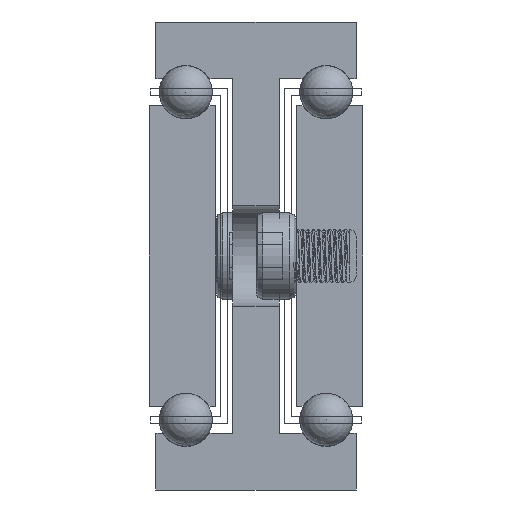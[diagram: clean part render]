
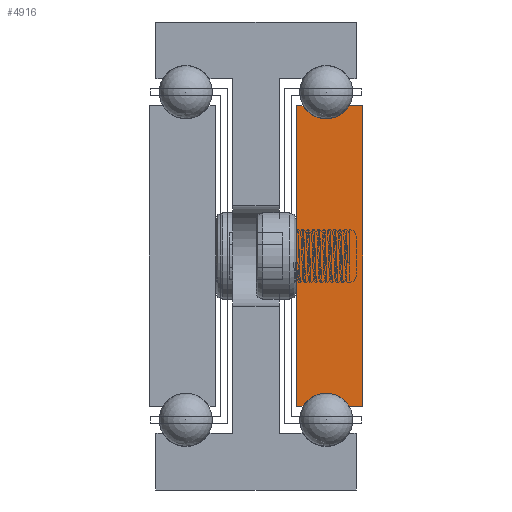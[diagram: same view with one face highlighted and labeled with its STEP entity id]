
A CAD part, front view. The second image highlights one B-rep face of the part: STEP entity #4916.
In plain terms, the highlighted planar face has unit normal (0, -1, 0).
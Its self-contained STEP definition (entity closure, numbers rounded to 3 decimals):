
#754=CIRCLE('',#5311,4.);
#756=CIRCLE('',#5317,4.);
#1226=FACE_OUTER_BOUND('',#1508,.T.);
#1508=EDGE_LOOP('',(#3980,#3981,#3982,#3983,#3984,#3985,#3986,#3987));
#2048=LINE('',#7664,#2260);
#2052=LINE('',#7672,#2264);
#2056=LINE('',#7684,#2268);
#2059=LINE('',#7690,#2271);
#2062=LINE('',#7696,#2274);
#2066=LINE('',#7707,#2278);
#2260=VECTOR('',#6124,1.);
#2264=VECTOR('',#6130,1.);
#2268=VECTOR('',#6142,1.);
#2271=VECTOR('',#6147,1.);
#2274=VECTOR('',#6152,1.);
#2278=VECTOR('',#6164,1.);
#2480=VERTEX_POINT('',#7662);
#2481=VERTEX_POINT('',#7663);
#2484=VERTEX_POINT('',#7671);
#2486=VERTEX_POINT('',#7677);
#2488=VERTEX_POINT('',#7683);
#2490=VERTEX_POINT('',#7689);
#2492=VERTEX_POINT('',#7695);
#2494=VERTEX_POINT('',#7701);
#3186=EDGE_CURVE('',#2480,#2481,#2048,.T.);
#3190=EDGE_CURVE('',#2481,#2484,#2052,.T.);
#3193=EDGE_CURVE('',#2484,#2486,#754,.T.);
#3196=EDGE_CURVE('',#2486,#2488,#2056,.T.);
#3199=EDGE_CURVE('',#2488,#2490,#2059,.T.);
#3202=EDGE_CURVE('',#2490,#2492,#2062,.T.);
#3205=EDGE_CURVE('',#2492,#2494,#756,.T.);
#3208=EDGE_CURVE('',#2494,#2480,#2066,.T.);
#3980=ORIENTED_EDGE('',*,*,#3208,.T.);
#3981=ORIENTED_EDGE('',*,*,#3186,.T.);
#3982=ORIENTED_EDGE('',*,*,#3190,.T.);
#3983=ORIENTED_EDGE('',*,*,#3193,.T.);
#3984=ORIENTED_EDGE('',*,*,#3196,.T.);
#3985=ORIENTED_EDGE('',*,*,#3199,.T.);
#3986=ORIENTED_EDGE('',*,*,#3202,.T.);
#3987=ORIENTED_EDGE('',*,*,#3205,.T.);
#4814=PLANE('',#5320);
#4916=ADVANCED_FACE('',(#1226),#4814,.F.);
#5311=AXIS2_PLACEMENT_3D('',#7678,#6135,#6136);
#5317=AXIS2_PLACEMENT_3D('',#7702,#6157,#6158);
#5320=AXIS2_PLACEMENT_3D('',#7709,#6166,#6167);
#6124=DIRECTION('',(0.,0.,1.));
#6130=DIRECTION('',(-1.,0.,0.));
#6135=DIRECTION('center_axis',(0.,1.,0.));
#6136=DIRECTION('ref_axis',(0.866,0.,-0.5));
#6142=DIRECTION('',(-1.,0.,0.));
#6147=DIRECTION('',(0.,0.,-1.));
#6152=DIRECTION('',(1.,0.,0.));
#6157=DIRECTION('center_axis',(0.,1.,0.));
#6158=DIRECTION('ref_axis',(-0.866,0.,0.5));
#6164=DIRECTION('',(1.,0.,0.));
#6166=DIRECTION('center_axis',(0.,1.,0.));
#6167=DIRECTION('ref_axis',(-1.,0.,0.));
#7662=CARTESIAN_POINT('',(-4335.522,-1249.115,927.5));
#7663=CARTESIAN_POINT('',(-4335.522,-1249.115,972.5));
#7664=CARTESIAN_POINT('',(-4335.522,-1249.115,927.5));
#7671=CARTESIAN_POINT('',(-4337.558,-1249.115,972.5));
#7672=CARTESIAN_POINT('',(-4335.522,-1249.115,972.5));
#7677=CARTESIAN_POINT('',(-4344.486,-1249.115,972.5));
#7678=CARTESIAN_POINT('Origin',(-4341.022,-1249.115,974.5));
#7683=CARTESIAN_POINT('',(-4345.522,-1249.115,972.5));
#7684=CARTESIAN_POINT('',(-4344.486,-1249.115,972.5));
#7689=CARTESIAN_POINT('',(-4345.522,-1249.115,927.5));
#7690=CARTESIAN_POINT('',(-4345.522,-1249.115,972.5));
#7695=CARTESIAN_POINT('',(-4344.486,-1249.115,927.5));
#7696=CARTESIAN_POINT('',(-4345.522,-1249.115,927.5));
#7701=CARTESIAN_POINT('',(-4337.558,-1249.115,927.5));
#7702=CARTESIAN_POINT('Origin',(-4341.022,-1249.115,925.5));
#7707=CARTESIAN_POINT('',(-4337.558,-1249.115,927.5));
#7709=CARTESIAN_POINT('Origin',(-4340.516,-1249.115,950.));
